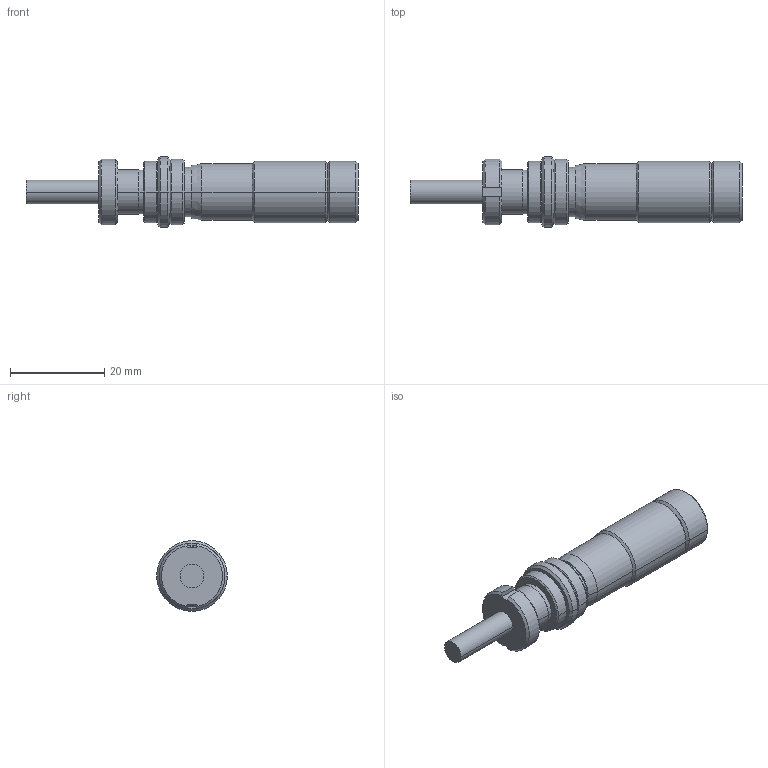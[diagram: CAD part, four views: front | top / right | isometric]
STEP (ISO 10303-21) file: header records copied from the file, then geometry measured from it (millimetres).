
FILE_DESCRIPTION(('Creo Elements/Direct Modeling STEP Export'),'2;1');
FILE_NAME('148-504_MHA2-13L.stp','2014-02-06T18:12:39',(''),(''),'Creo Elements/Direct Modeling STEP processor for AP214 (Solid Model)','Creo Elements/Direct Modeling 18.1B 29-Sep-2012 (C) Parametric Technology GmbH','');
FILE_SCHEMA(('AUTOMOTIVE_DESIGN { 1 0 10303 214 1 1 1 1 }'));
Length unit declared in the file: millimetre
Products named in the file (1): 148-504_MHA2-13L
Bounding box: 70.6 x 15 x 15 mm (x, y, z)
Volume: 7155 mm3; surface area: 2986.6 mm2
Topology: 1 solids, 1 shells, 64 faces, 136 edges, 82 vertices
Faces by surface type: cone 26, cylinder 22, plane 16
Entity records: 1648 total; most frequent: CARTESIAN_POINT 343, ORIENTED_EDGE 272, DIRECTION 252, EDGE_CURVE 136, AXIS2_PLACEMENT_3D 95, VERTEX_POINT 82, EDGE_LOOP 72, FACE_OUTER_BOUND 64
